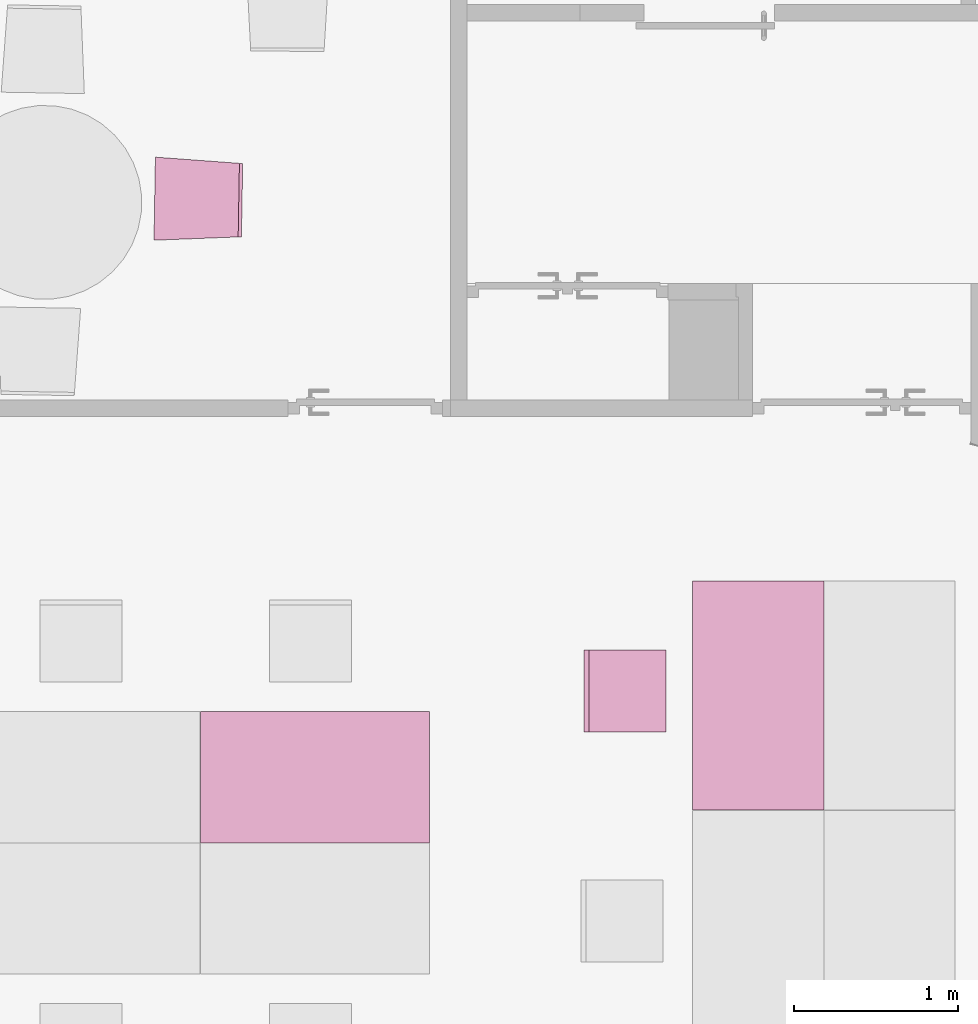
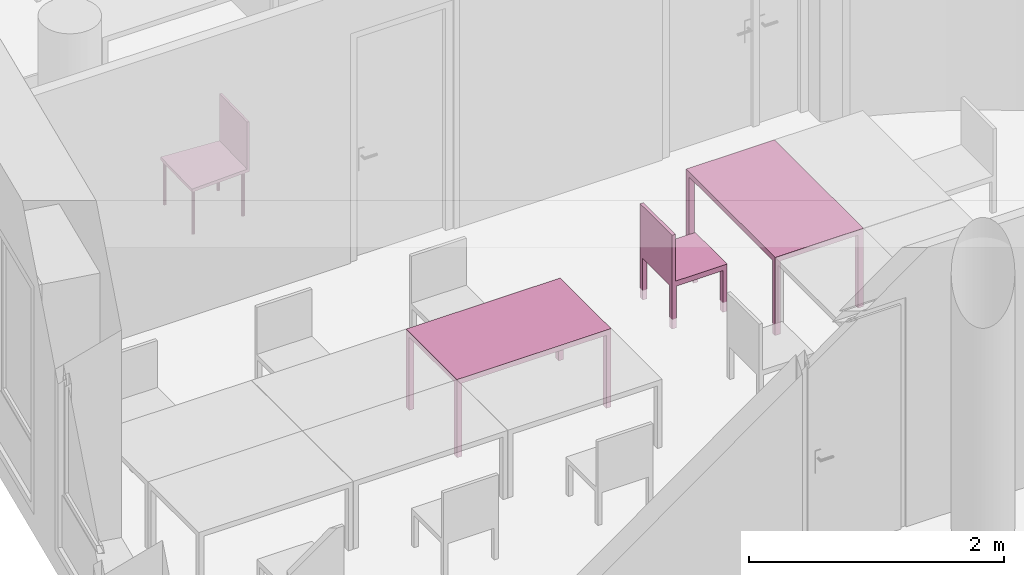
"""IFC4 building model written with IfcOpenShell, lengths in metres."""

from ifc_helpers import new_model, entity, si_unit, converted_unit, derived_unit, frame, origin, place, context, subcontext, project, spatial, faceted_brep, element, save


model = new_model("IFC4")

# Units and contexts
model_context = context("Model", 3, precision=1e-05, world=origin())
body_context = subcontext(model_context, "Body", "Model", "MODEL_VIEW")
ifc_project = project(units=[si_unit("LENGTHUNIT", "METRE"), si_unit("AREAUNIT", "SQUARE_METRE"), si_unit("VOLUMEUNIT", "CUBIC_METRE"), si_unit("MASSUNIT", "GRAM", prefix="KILO"), converted_unit("PLANEANGLEUNIT", "DEGREE", entity("IfcPlaneAngleMeasure", 0.0174532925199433), si_unit("PLANEANGLEUNIT", "RADIAN"), dimensions=[0, 0, 0, 0, 0, 0, 0]), derived_unit("THERMALTRANSMITTANCEUNIT", [(si_unit("POWERUNIT", "WATT"), 1), (si_unit("THERMODYNAMICTEMPERATUREUNIT", "KELVIN"), -1), (si_unit("LENGTHUNIT", "METRE"), -2)]), derived_unit("VOLUMETRICFLOWRATEUNIT", [(si_unit("LENGTHUNIT", "METRE"), 3), (converted_unit("TIMEUNIT", "hour", entity("IfcTimeMeasure", 3600.0), si_unit("TIMEUNIT", "SECOND"), dimensions=[0, 0, 1, 0, 0, 0, 0]), -1), (si_unit("LENGTHUNIT", "METRE"), -1)])], contexts=[model_context])

# Building, storeys
building_placement = place(None, origin())
building = spatial("IfcBuilding", under=ifc_project, at=building_placement, Name="HABITATGE PLURIFAMILIAR", CompositionType="ELEMENT")
storey_1_placement = place(building_placement, frame((0.0, 0.0, 9.26)))
storey_1 = spatial("IfcBuildingStorey", under=building, at=storey_1_placement, Name="PLANTA SEGONA", CompositionType="ELEMENT", Elevation=9.26)
storey_2_placement = place(storey_1_placement, frame((0.0, 0.0, 6.25)))
storey_2 = spatial("IfcBuildingStorey", under=storey_1, at=storey_2_placement, Name="NOU", CompositionType="PARTIAL")

# Furniture
furniture_1_placement = place(storey_2_placement, frame((402.812001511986, 20.8193908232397, -6.3499999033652)))
element("IfcFurniture", 1, at=furniture_1_placement, inside=storey_2, Name="Taula 140X80_P2", context=body_context, shape_type="Brep", body=[
    faceted_brep([(0.04375, 0.05, 0.0), (0.0, 0.05, 0.0), (0.0, 0.0, 0.0), (0.04375, 0.0, 0.0), (0.04375, 0.0, 0.7), (0.0, 0.0, 0.7), (0.0, 0.05, 0.7), (0.04375, 0.05, 0.7)], [[[0, 1, 2, 3]], [[4, 5, 6, 7]], [[3, 4, 7, 0]], [[2, 5, 4, 3]], [[1, 6, 5, 2]], [[0, 7, 6, 1]]], orient=[[False], [False], [False], [False], [False], [False]]),
    faceted_brep([(0.04375, 0.800069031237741, 0.0), (0.0, 0.800069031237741, 0.0), (0.0, 0.750069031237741, 0.0), (0.04375, 0.750069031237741, 0.0), (0.04375, 0.750069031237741, 0.7), (0.0, 0.750069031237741, 0.7), (0.0, 0.800069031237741, 0.7), (0.04375, 0.800069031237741, 0.7)], [[[0, 1, 2, 3]], [[4, 5, 6, 7]], [[3, 4, 7, 0]], [[2, 5, 4, 3]], [[1, 6, 5, 2]], [[0, 7, 6, 1]]], orient=[[False], [False], [False], [False], [False], [False]]),
    faceted_brep([(1.39732768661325, 0.800069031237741, 0.7), (0.0, 0.800069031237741, 0.7), (0.0, 0.0, 0.7), (1.39732768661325, 0.0, 0.7), (1.39732768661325, 0.0, 0.75), (0.0, 0.0, 0.75), (0.0, 0.800069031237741, 0.75), (1.39732768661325, 0.800069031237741, 0.75)], [[[0, 1, 2, 3]], [[4, 5, 6, 7]], [[3, 4, 7, 0]], [[2, 5, 4, 3]], [[1, 6, 5, 2]], [[0, 7, 6, 1]]], orient=[[False], [False], [False], [False], [False], [False]]),
    faceted_brep([(1.39732768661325, 0.05, 0.0), (1.35357768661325, 0.05, 0.0), (1.35357768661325, 0.0, 0.0), (1.39732768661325, 0.0, 0.0), (1.39732768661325, 0.0, 0.7), (1.35357768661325, 0.0, 0.7), (1.35357768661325, 0.05, 0.7), (1.39732768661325, 0.05, 0.7)], [[[0, 1, 2, 3]], [[4, 5, 6, 7]], [[3, 4, 7, 0]], [[2, 5, 4, 3]], [[1, 6, 5, 2]], [[0, 7, 6, 1]]], orient=[[False], [False], [False], [False], [False], [False]]),
    faceted_brep([(1.39732768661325, 0.800069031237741, 0.0), (1.35357768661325, 0.800069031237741, 0.0), (1.35357768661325, 0.750069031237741, 0.0), (1.39732768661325, 0.750069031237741, 0.0), (1.39732768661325, 0.750069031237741, 0.7), (1.35357768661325, 0.750069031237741, 0.7), (1.35357768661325, 0.800069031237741, 0.7), (1.39732768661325, 0.800069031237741, 0.7)], [[[0, 1, 2, 3]], [[4, 5, 6, 7]], [[3, 4, 7, 0]], [[2, 5, 4, 3]], [[1, 6, 5, 2]], [[0, 7, 6, 1]]], orient=[[False], [False], [False], [False], [False], [False]]),
])
furniture_2_placement = place(storey_2_placement, frame((405.811552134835, 21.0190050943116, -6.3499999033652)))
element("IfcFurniture", 2, at=furniture_2_placement, inside=storey_2, Name="Taula 140X80_P2", context=body_context, shape_type="Brep", body=[
    faceted_brep([(0.750069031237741, 1.35357768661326, 0.0), (0.800069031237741, 1.35357768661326, 0.0), (0.800069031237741, 1.39732768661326, 0.0), (0.750069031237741, 1.39732768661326, 0.0), (0.800069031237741, 1.35357768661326, 0.7), (0.750069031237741, 1.35357768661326, 0.7), (0.750069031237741, 1.39732768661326, 0.7), (0.800069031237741, 1.39732768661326, 0.7)], [[[0, 1, 2, 3]], [[4, 5, 6, 7]], [[1, 0, 5, 4]], [[2, 1, 4, 7]], [[3, 2, 7, 6]], [[0, 3, 6, 5]]], orient=[[False], [False], [False], [False], [False], [False]]),
    faceted_brep([(0.0, 1.35357768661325, 0.0), (0.05, 1.35357768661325, 0.0), (0.05, 1.39732768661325, 0.0), (0.0, 1.39732768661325, 0.0), (0.05, 1.35357768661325, 0.7), (0.0, 1.35357768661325, 0.7), (0.0, 1.39732768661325, 0.7), (0.05, 1.39732768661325, 0.7)], [[[0, 1, 2, 3]], [[4, 5, 6, 7]], [[1, 0, 5, 4]], [[2, 1, 4, 7]], [[3, 2, 7, 6]], [[0, 3, 6, 5]]], orient=[[False], [False], [False], [False], [False], [False]]),
    faceted_brep([(0.0, 0.0, 0.7), (0.800069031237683, 0.0, 0.7), (0.800069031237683, 1.39732768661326, 0.7), (0.0, 1.39732768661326, 0.7), (0.800069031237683, 0.0, 0.75), (0.0, 0.0, 0.75), (0.0, 1.39732768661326, 0.75), (0.800069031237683, 1.39732768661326, 0.75)], [[[0, 1, 2, 3]], [[4, 5, 6, 7]], [[1, 0, 5, 4]], [[2, 1, 4, 7]], [[3, 2, 7, 6]], [[0, 3, 6, 5]]], orient=[[False], [False], [False], [False], [False], [False]]),
    faceted_brep([(0.750069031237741, 0.0, 0.0), (0.800069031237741, 0.0, 0.0), (0.800069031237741, 0.0437500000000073, 0.0), (0.750069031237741, 0.0437500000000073, 0.0), (0.800069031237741, 0.0, 0.7), (0.750069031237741, 0.0, 0.7), (0.750069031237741, 0.0437500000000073, 0.7), (0.800069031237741, 0.0437500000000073, 0.7)], [[[0, 1, 2, 3]], [[4, 5, 6, 7]], [[1, 0, 5, 4]], [[2, 1, 4, 7]], [[3, 2, 7, 6]], [[0, 3, 6, 5]]], orient=[[False], [False], [False], [False], [False], [False]]),
    faceted_brep([(0.0, 0.0, 0.0), (0.05, 0.0, 0.0), (0.05, 0.04375, 0.0), (0.0, 0.04375, 0.0), (0.05, 0.0, 0.7), (0.0, 0.0, 0.7), (0.0, 0.04375, 0.7), (0.05, 0.04375, 0.7)], [[[0, 1, 2, 3]], [[4, 5, 6, 7]], [[1, 0, 5, 4]], [[2, 1, 4, 7]], [[3, 2, 7, 6]], [[0, 3, 6, 5]]], orient=[[False], [False], [False], [False], [False], [False]]),
])
furniture_3_placement = place(storey_2_placement, frame((405.150919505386, 21.4943461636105, -6.34507213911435)))
element("IfcFurniture", 3, at=furniture_3_placement, inside=storey_2, Name="Cadira d'Oficina_P2", context=body_context, shape_type="Brep", body=[
    faceted_brep([(0.5, 0.0, 0.4), (0.5, 0.5, 0.4), (0.0, 0.5, 0.4), (0.0, 0.0, 0.4), (0.0, 0.0, 0.45), (0.0, 0.5, 0.45), (0.5, 0.5, 0.45), (0.5, 0.0, 0.45)], [[[0, 1, 2, 3]], [[4, 5, 6, 7]], [[3, 4, 7, 0]], [[2, 5, 4, 3]], [[1, 6, 5, 2]], [[0, 7, 6, 1]]], orient=[[False], [False], [False], [False], [False], [False]]),
    faceted_brep([(0.04, 0.5, 0.0), (0.0, 0.5, 0.0), (0.0, 0.46, 0.0), (0.04, 0.46, 0.0), (0.04, 0.46, 0.4), (0.0, 0.46, 0.4), (0.0, 0.5, 0.4), (0.04, 0.5, 0.4)], [[[0, 1, 2, 3]], [[4, 5, 6, 7]], [[3, 4, 7, 0]], [[2, 5, 4, 3]], [[1, 6, 5, 2]], [[0, 7, 6, 1]]], orient=[[False], [False], [False], [False], [False], [False]]),
    faceted_brep([(0.5, 0.5, 0.0), (0.46, 0.5, 0.0), (0.46, 0.46, 0.0), (0.5, 0.46, 0.0), (0.5, 0.46, 0.4), (0.46, 0.46, 0.4), (0.46, 0.5, 0.4), (0.5, 0.5, 0.4)], [[[0, 1, 2, 3]], [[4, 5, 6, 7]], [[3, 4, 7, 0]], [[2, 5, 4, 3]], [[1, 6, 5, 2]], [[0, 7, 6, 1]]], orient=[[False], [False], [False], [False], [False], [False]]),
    faceted_brep([(0.04, 0.04, 0.0), (0.0, 0.04, 0.0), (0.0, 0.0, 0.0), (0.04, 0.0, 0.0), (0.04, 0.0, 0.4), (0.0, 0.0, 0.4), (0.0, 0.04, 0.4), (0.04, 0.04, 0.4)], [[[0, 1, 2, 3]], [[4, 5, 6, 7]], [[3, 4, 7, 0]], [[2, 5, 4, 3]], [[1, 6, 5, 2]], [[0, 7, 6, 1]]], orient=[[False], [False], [False], [False], [False], [False]]),
    faceted_brep([(0.5, 0.04, 0.0), (0.46, 0.04, 0.0), (0.46, 0.0, 0.0), (0.5, 0.0, 0.0), (0.5, 0.0, 0.4), (0.46, 0.0, 0.4), (0.46, 0.04, 0.4), (0.5, 0.04, 0.4)], [[[0, 1, 2, 3]], [[4, 5, 6, 7]], [[3, 4, 7, 0]], [[2, 5, 4, 3]], [[1, 6, 5, 2]], [[0, 7, 6, 1]]], orient=[[False], [False], [False], [False], [False], [False]]),
    faceted_brep([(0.03, 0.5, 0.45), (0.0, 0.5, 0.45), (0.0, 0.0, 0.45), (0.03, 0.0, 0.45), (0.03, 0.0, 0.9), (0.0, 0.0, 0.9), (0.0, 0.5, 0.9), (0.03, 0.5, 0.9)], [[[0, 1, 2, 3]], [[4, 5, 6, 7]], [[3, 4, 7, 0]], [[2, 5, 4, 3]], [[1, 6, 5, 2]], [[0, 7, 6, 1]]], orient=[[False], [False], [False], [False], [False], [False]]),
])
furniture_4_placement = place(storey_2_placement, frame((402.528771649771, 24.4922417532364, -6.3514820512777)))
element("IfcFurniture", 4, at=furniture_4_placement, inside=storey_2, Name="Cadira confident_P2", context=body_context, shape_type="Brep", body=[
    faceted_brep([(0.0257632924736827, 0.0387289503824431, 0.0), (0.0231658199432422, 0.0385463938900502, 0.0), (0.0206395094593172, 0.0379155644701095, 0.0), (0.0182611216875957, 0.0368556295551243, 0.0), (0.0161029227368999, 0.0353987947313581, 0.0), (0.0142304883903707, 0.0335893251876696, 0.0), (0.0127007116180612, 0.0314822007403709, 0.0), (0.0115600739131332, 0.0291414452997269, 0.0), (0.0108432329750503, 0.0266381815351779, 0.0), (0.0105719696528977, 0.0240484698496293, 0.0), (0.0107545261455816, 0.0214509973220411, 0.0), (0.0113853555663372, 0.0189246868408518, 0.0), (0.0124452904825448, 0.0165462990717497, 0.0), (0.0139021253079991, 0.0143881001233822, 0.0), (0.0157115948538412, 0.0125156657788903, 0.0), (0.0178187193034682, 0.0109858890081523, 0.0), (0.0201594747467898, 0.00984525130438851, 0.0), (0.0226627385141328, 0.00912841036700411, 0.0), (0.0252524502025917, 0.00885714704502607, 0.0), (0.0278499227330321, 0.00903970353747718, 0.0), (0.0303762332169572, 0.00967053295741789, 0.0), (0.0327546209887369, 0.0107304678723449, 0.0), (0.0349128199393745, 0.0121873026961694, 0.0), (0.0367852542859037, 0.0139967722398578, 0.0), (0.0383150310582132, 0.0161038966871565, 0.0), (0.0394556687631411, 0.0184446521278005, 0.0), (0.0401725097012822, 0.0209479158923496, 0.0), (0.0404437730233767, 0.0235376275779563, 0.0), (0.040261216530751, 0.0261351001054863, 0.0), (0.0396303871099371, 0.0286614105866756, 0.0), (0.0385704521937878, 0.0310397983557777, 0.0), (0.0371136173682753, 0.0331979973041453, 0.0), (0.0353041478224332, 0.0350704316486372, 0.0), (0.0331970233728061, 0.0366002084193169, 0.0), (0.0308562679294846, 0.0377408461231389, 0.0), (0.0283530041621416, 0.0384576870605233, 0.0), (0.0257632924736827, 0.0387289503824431, 0.448281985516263), (0.0283530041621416, 0.0384576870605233, 0.448281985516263), (0.0308562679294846, 0.0377408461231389, 0.448281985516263), (0.0331970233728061, 0.0366002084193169, 0.448281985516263), (0.0353041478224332, 0.0350704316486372, 0.448281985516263), (0.0371136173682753, 0.0331979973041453, 0.448281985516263), (0.0385704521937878, 0.0310397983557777, 0.448281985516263), (0.0396303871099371, 0.0286614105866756, 0.448281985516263), (0.040261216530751, 0.0261351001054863, 0.448281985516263), (0.0404437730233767, 0.0235376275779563, 0.448281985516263), (0.0401725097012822, 0.0209479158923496, 0.448281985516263), (0.0394556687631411, 0.0184446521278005, 0.448281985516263), (0.0383150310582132, 0.0161038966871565, 0.448281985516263), (0.0367852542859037, 0.0139967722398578, 0.448281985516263), (0.0349128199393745, 0.0121873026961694, 0.448281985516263), (0.0327546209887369, 0.0107304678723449, 0.448281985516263), (0.0303762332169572, 0.00967053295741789, 0.448281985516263), (0.0278499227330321, 0.00903970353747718, 0.448281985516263), (0.0252524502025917, 0.00885714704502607, 0.448281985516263), (0.0226627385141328, 0.00912841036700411, 0.448281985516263), (0.0201594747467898, 0.00984525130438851, 0.448281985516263), (0.0178187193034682, 0.0109858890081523, 0.448281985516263), (0.0157115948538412, 0.0125156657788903, 0.448281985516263), (0.0139021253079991, 0.0143881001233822, 0.448281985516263), (0.0124452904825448, 0.0165462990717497, 0.448281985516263), (0.0113853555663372, 0.0189246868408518, 0.448281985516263), (0.0107545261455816, 0.0214509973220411, 0.448281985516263), (0.0105719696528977, 0.0240484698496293, 0.448281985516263), (0.0108432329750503, 0.0266381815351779, 0.448281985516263), (0.0115600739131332, 0.0291414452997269, 0.448281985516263), (0.0127007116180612, 0.0314822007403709, 0.448281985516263), (0.0142304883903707, 0.0335893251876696, 0.448281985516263), (0.0161029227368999, 0.0353987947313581, 0.448281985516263), (0.0182611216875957, 0.0368556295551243, 0.448281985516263), (0.0206395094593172, 0.0379155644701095, 0.448281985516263), (0.0231658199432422, 0.0385463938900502, 0.448281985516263)], [[[0, 1, 2, 3, 4, 5, 6, 7, 8, 9, 10, 11, 12, 13, 14, 15, 16, 17, 18, 19, 20, 21, 22, 23, 24, 25, 26, 27, 28, 29, 30, 31, 32, 33, 34, 35]], [[36, 37, 38, 39, 40, 41, 42, 43, 44, 45, 46, 47, 48, 49, 50, 51, 52, 53, 54, 55, 56, 57, 58, 59, 60, 61, 62, 63, 64, 65, 66, 67, 68, 69, 70, 71]], [[35, 37, 36, 0]], [[34, 38, 37, 35]], [[33, 39, 38, 34]], [[32, 40, 39, 33]], [[31, 41, 40, 32]], [[30, 42, 41, 31]], [[29, 43, 42, 30]], [[28, 44, 43, 29]], [[27, 45, 44, 28]], [[26, 46, 45, 27]], [[25, 47, 46, 26]], [[24, 48, 47, 25]], [[23, 49, 48, 24]], [[22, 50, 49, 23]], [[21, 51, 50, 22]], [[20, 52, 51, 21]], [[19, 53, 52, 20]], [[18, 54, 53, 19]], [[17, 55, 54, 18]], [[16, 56, 55, 17]], [[15, 57, 56, 16]], [[14, 58, 57, 15]], [[13, 59, 58, 14]], [[12, 60, 59, 13]], [[11, 61, 60, 12]], [[10, 62, 61, 11]], [[9, 63, 62, 10]], [[8, 64, 63, 9]], [[7, 65, 64, 8]], [[6, 66, 65, 7]], [[5, 67, 66, 6]], [[4, 68, 67, 5]], [[3, 69, 68, 4]], [[2, 70, 69, 3]], [[1, 71, 70, 2]], [[0, 36, 71, 1]]], orient=[[False], [False], [False], [False], [False], [False], [False], [False], [False], [False], [False], [False], [False], [False], [False], [False], [False], [False], [False], [False], [False], [False], [False], [False], [False], [False], [False], [False], [False], [False], [False], [False], [False], [False], [False], [False], [False], [False]]),
    faceted_brep([(0.488575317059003, 0.0584563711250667, 0.0), (0.485977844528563, 0.0582738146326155, 0.0), (0.483451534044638, 0.0576429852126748, 0.0), (0.481073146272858, 0.0565830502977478, 0.0), (0.478914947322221, 0.0551262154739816, 0.0), (0.477042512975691, 0.0533167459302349, 0.0), (0.475512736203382, 0.0512096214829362, 0.0), (0.474372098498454, 0.0488688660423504, 0.0), (0.473655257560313, 0.0463656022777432, 0.0), (0.473383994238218, 0.0437758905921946, 0.0), (0.473566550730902, 0.0411784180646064, 0.0), (0.474197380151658, 0.0386521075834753, 0.0), (0.475257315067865, 0.0362737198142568, 0.0), (0.47671414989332, 0.0341155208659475, 0.0), (0.478523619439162, 0.0322430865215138, 0.0), (0.480630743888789, 0.0307133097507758, 0.0), (0.48297149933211, 0.0295726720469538, 0.0), (0.485474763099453, 0.0288558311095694, 0.0), (0.488064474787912, 0.0285845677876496, 0.0), (0.490661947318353, 0.0287671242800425, 0.0), (0.493188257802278, 0.0293979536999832, 0.0), (0.495566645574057, 0.0304578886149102, 0.0), (0.497724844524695, 0.0319147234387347, 0.0), (0.499597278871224, 0.0337241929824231, 0.0), (0.501127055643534, 0.0358313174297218, 0.0), (0.502267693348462, 0.0381720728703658, 0.0), (0.502984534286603, 0.0406753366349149, 0.0), (0.503255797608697, 0.0432650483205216, 0.0), (0.503073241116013, 0.0458625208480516, 0.0), (0.502442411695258, 0.0483888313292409, 0.0), (0.501382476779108, 0.0507672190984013, 0.0), (0.499925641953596, 0.0529254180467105, 0.0), (0.498116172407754, 0.0547978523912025, 0.0), (0.496009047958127, 0.0563276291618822, 0.0), (0.493668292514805, 0.0574682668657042, 0.0), (0.491165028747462, 0.0581851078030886, 0.0), (0.488575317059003, 0.0584563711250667, 0.448281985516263), (0.491165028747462, 0.0581851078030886, 0.448281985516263), (0.493668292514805, 0.0574682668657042, 0.448281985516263), (0.496009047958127, 0.0563276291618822, 0.448281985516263), (0.498116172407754, 0.0547978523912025, 0.448281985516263), (0.499925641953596, 0.0529254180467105, 0.448281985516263), (0.501382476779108, 0.0507672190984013, 0.448281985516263), (0.502442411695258, 0.0483888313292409, 0.448281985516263), (0.503073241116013, 0.0458625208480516, 0.448281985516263), (0.503255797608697, 0.0432650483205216, 0.448281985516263), (0.502984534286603, 0.0406753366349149, 0.448281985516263), (0.502267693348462, 0.0381720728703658, 0.448281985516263), (0.501127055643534, 0.0358313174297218, 0.448281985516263), (0.499597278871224, 0.0337241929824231, 0.448281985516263), (0.497724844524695, 0.0319147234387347, 0.448281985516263), (0.495566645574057, 0.0304578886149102, 0.448281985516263), (0.493188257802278, 0.0293979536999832, 0.448281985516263), (0.490661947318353, 0.0287671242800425, 0.448281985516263), (0.488064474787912, 0.0285845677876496, 0.448281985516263), (0.485474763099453, 0.0288558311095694, 0.448281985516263), (0.48297149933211, 0.0295726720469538, 0.448281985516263), (0.480630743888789, 0.0307133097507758, 0.448281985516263), (0.478523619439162, 0.0322430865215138, 0.448281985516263), (0.47671414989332, 0.0341155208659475, 0.448281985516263), (0.475257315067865, 0.0362737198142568, 0.448281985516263), (0.474197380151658, 0.0386521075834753, 0.448281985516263), (0.473566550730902, 0.0411784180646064, 0.448281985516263), (0.473383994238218, 0.0437758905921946, 0.448281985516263), (0.473655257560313, 0.0463656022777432, 0.448281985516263), (0.474372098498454, 0.0488688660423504, 0.448281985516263), (0.475512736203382, 0.0512096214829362, 0.448281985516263), (0.477042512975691, 0.0533167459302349, 0.448281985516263), (0.478914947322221, 0.0551262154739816, 0.448281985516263), (0.481073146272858, 0.0565830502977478, 0.448281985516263), (0.483451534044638, 0.0576429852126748, 0.448281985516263), (0.485977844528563, 0.0582738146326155, 0.448281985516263)], [[[0, 1, 2, 3, 4, 5, 6, 7, 8, 9, 10, 11, 12, 13, 14, 15, 16, 17, 18, 19, 20, 21, 22, 23, 24, 25, 26, 27, 28, 29, 30, 31, 32, 33, 34, 35]], [[36, 37, 38, 39, 40, 41, 42, 43, 44, 45, 46, 47, 48, 49, 50, 51, 52, 53, 54, 55, 56, 57, 58, 59, 60, 61, 62, 63, 64, 65, 66, 67, 68, 69, 70, 71]], [[35, 37, 36, 0]], [[34, 38, 37, 35]], [[33, 39, 38, 34]], [[32, 40, 39, 33]], [[31, 41, 40, 32]], [[30, 42, 41, 31]], [[29, 43, 42, 30]], [[28, 44, 43, 29]], [[27, 45, 44, 28]], [[26, 46, 45, 27]], [[25, 47, 46, 26]], [[24, 48, 47, 25]], [[23, 49, 48, 24]], [[22, 50, 49, 23]], [[21, 51, 50, 22]], [[20, 52, 51, 21]], [[19, 53, 52, 20]], [[18, 54, 53, 19]], [[17, 55, 54, 18]], [[16, 56, 55, 17]], [[15, 57, 56, 16]], [[14, 58, 57, 15]], [[13, 59, 58, 14]], [[12, 60, 59, 13]], [[11, 61, 60, 12]], [[10, 62, 61, 11]], [[9, 63, 62, 10]], [[8, 64, 63, 9]], [[7, 65, 64, 8]], [[6, 66, 65, 7]], [[5, 67, 66, 6]], [[4, 68, 67, 5]], [[3, 69, 68, 4]], [[2, 70, 69, 3]], [[1, 71, 70, 2]], [[0, 36, 71, 1]]], orient=[[False], [False], [False], [False], [False], [False], [False], [False], [False], [False], [False], [False], [False], [False], [False], [False], [False], [False], [False], [False], [False], [False], [False], [False], [False], [False], [False], [False], [False], [False], [False], [False], [False], [False], [False], [False], [False], [False]]),
    faceted_brep([(0.0336286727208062, 0.498661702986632, 0.0), (0.0310312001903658, 0.498479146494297, 0.0), (0.0285048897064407, 0.497848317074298, 0.0), (0.0261265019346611, 0.496788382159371, 0.0), (0.0239683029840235, 0.495331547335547, 0.0), (0.0220958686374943, 0.493522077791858, 0.0), (0.0205660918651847, 0.49141495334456, 0.0), (0.0194254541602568, 0.489074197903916, 0.0), (0.0187086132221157, 0.486570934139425, 0.0), (0.0184373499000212, 0.48398122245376, 0.0), (0.0186199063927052, 0.48138374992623, 0.0), (0.0192507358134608, 0.478857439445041, 0.0), (0.0203106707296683, 0.476479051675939, 0.0), (0.0217675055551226, 0.474320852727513, 0.0), (0.0235769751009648, 0.472448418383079, 0.0), (0.0256840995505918, 0.470918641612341, 0.0), (0.0280248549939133, 0.469778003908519, 0.0), (0.0305281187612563, 0.469061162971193, 0.0), (0.0331178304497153, 0.468789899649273, 0.0), (0.0357153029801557, 0.468972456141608, 0.0), (0.0382416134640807, 0.469603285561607, 0.0), (0.0406200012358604, 0.470663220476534, 0.0), (0.042778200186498, 0.472120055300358, 0.0), (0.0446506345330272, 0.473929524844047, 0.0), (0.0461804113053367, 0.476036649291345, 0.0), (0.0473210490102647, 0.478377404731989, 0.0), (0.0480378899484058, 0.48088066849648, 0.0), (0.0483091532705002, 0.483470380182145, 0.0), (0.0481265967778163, 0.486067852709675, 0.0), (0.0474957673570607, 0.488594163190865, 0.0), (0.0464358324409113, 0.490972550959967, 0.0), (0.0449789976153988, 0.493130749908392, 0.0), (0.0431695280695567, 0.495003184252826, 0.0), (0.0410624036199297, 0.496532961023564, 0.0), (0.0387216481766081, 0.497673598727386, 0.0), (0.0362183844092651, 0.498390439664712, 0.0), (0.0336286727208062, 0.498661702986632, 0.448281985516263), (0.0362183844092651, 0.498390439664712, 0.448281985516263), (0.0387216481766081, 0.497673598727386, 0.448281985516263), (0.0410624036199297, 0.496532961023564, 0.448281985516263), (0.0431695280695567, 0.495003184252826, 0.448281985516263), (0.0449789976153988, 0.493130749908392, 0.448281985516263), (0.0464358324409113, 0.490972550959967, 0.448281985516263), (0.0474957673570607, 0.488594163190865, 0.448281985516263), (0.0481265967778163, 0.486067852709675, 0.448281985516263), (0.0483091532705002, 0.483470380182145, 0.448281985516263), (0.0480378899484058, 0.48088066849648, 0.448281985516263), (0.0473210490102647, 0.478377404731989, 0.448281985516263), (0.0461804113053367, 0.476036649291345, 0.448281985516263), (0.0446506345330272, 0.473929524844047, 0.448281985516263), (0.042778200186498, 0.472120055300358, 0.448281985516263), (0.0406200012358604, 0.470663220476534, 0.448281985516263), (0.0382416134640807, 0.469603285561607, 0.448281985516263), (0.0357153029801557, 0.468972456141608, 0.448281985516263), (0.0331178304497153, 0.468789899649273, 0.448281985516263), (0.0305281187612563, 0.469061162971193, 0.448281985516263), (0.0280248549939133, 0.469778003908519, 0.448281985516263), (0.0256840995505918, 0.470918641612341, 0.448281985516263), (0.0235769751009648, 0.472448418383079, 0.448281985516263), (0.0217675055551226, 0.474320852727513, 0.448281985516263), (0.0203106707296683, 0.476479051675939, 0.448281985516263), (0.0192507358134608, 0.478857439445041, 0.448281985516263), (0.0186199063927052, 0.48138374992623, 0.448281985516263), (0.0184373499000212, 0.48398122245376, 0.448281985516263), (0.0187086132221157, 0.486570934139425, 0.448281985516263), (0.0194254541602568, 0.489074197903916, 0.448281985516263), (0.0205660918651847, 0.49141495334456, 0.448281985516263), (0.0220958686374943, 0.493522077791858, 0.448281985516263), (0.0239683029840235, 0.495331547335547, 0.448281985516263), (0.0261265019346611, 0.496788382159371, 0.448281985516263), (0.0285048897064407, 0.497848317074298, 0.448281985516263), (0.0310312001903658, 0.498479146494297, 0.448281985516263)], [[[0, 1, 2, 3, 4, 5, 6, 7, 8, 9, 10, 11, 12, 13, 14, 15, 16, 17, 18, 19, 20, 21, 22, 23, 24, 25, 26, 27, 28, 29, 30, 31, 32, 33, 34, 35]], [[36, 37, 38, 39, 40, 41, 42, 43, 44, 45, 46, 47, 48, 49, 50, 51, 52, 53, 54, 55, 56, 57, 58, 59, 60, 61, 62, 63, 64, 65, 66, 67, 68, 69, 70, 71]], [[35, 37, 36, 0]], [[34, 38, 37, 35]], [[33, 39, 38, 34]], [[32, 40, 39, 33]], [[31, 41, 40, 32]], [[30, 42, 41, 31]], [[29, 43, 42, 30]], [[28, 44, 43, 29]], [[27, 45, 44, 28]], [[26, 46, 45, 27]], [[25, 47, 46, 26]], [[24, 48, 47, 25]], [[23, 49, 48, 24]], [[22, 50, 49, 23]], [[21, 51, 50, 22]], [[20, 52, 51, 21]], [[19, 53, 52, 20]], [[18, 54, 53, 19]], [[17, 55, 54, 18]], [[16, 56, 55, 17]], [[15, 57, 56, 16]], [[14, 58, 57, 15]], [[13, 59, 58, 14]], [[12, 60, 59, 13]], [[11, 61, 60, 12]], [[10, 62, 61, 11]], [[9, 63, 62, 10]], [[8, 64, 63, 9]], [[7, 65, 64, 8]], [[6, 66, 65, 7]], [[5, 67, 66, 6]], [[4, 68, 67, 5]], [[3, 69, 68, 4]], [[2, 70, 69, 3]], [[1, 71, 70, 2]], [[0, 36, 71, 1]]], orient=[[False], [False], [False], [False], [False], [False], [False], [False], [False], [False], [False], [False], [False], [False], [False], [False], [False], [False], [False], [False], [False], [False], [False], [False], [False], [False], [False], [False], [False], [False], [False], [False], [False], [False], [False], [False], [False], [False]]),
    faceted_brep([(0.495414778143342, 0.458397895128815, 0.0), (0.492817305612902, 0.458215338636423, 0.0), (0.490290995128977, 0.457584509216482, 0.0), (0.487912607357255, 0.456524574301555, 0.0), (0.485754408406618, 0.455067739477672, 0.0), (0.48388197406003, 0.453258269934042, 0.0), (0.482352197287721, 0.451151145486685, 0.0), (0.481211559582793, 0.448810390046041, 0.0), (0.48049471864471, 0.44630712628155, 0.0), (0.480223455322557, 0.443717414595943, 0.0), (0.480406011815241, 0.441119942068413, 0.0), (0.481036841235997, 0.438593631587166, 0.0), (0.482096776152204, 0.436215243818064, 0.0), (0.483553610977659, 0.434057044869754, 0.0), (0.485363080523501, 0.432184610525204, 0.0), (0.487470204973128, 0.430654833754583, 0.0), (0.489810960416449, 0.429514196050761, 0.0), (0.492314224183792, 0.428797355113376, 0.0), (0.494903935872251, 0.428526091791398, 0.0), (0.497501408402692, 0.428708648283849, 0.0), (0.500027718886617, 0.42933947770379, 0.0), (0.502406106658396, 0.430399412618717, 0.0), (0.504564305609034, 0.431856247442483, 0.0), (0.506436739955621, 0.43366571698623, 0.0), (0.507966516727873, 0.435772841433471, 0.0), (0.509107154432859, 0.438113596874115, 0.0), (0.509823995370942, 0.440616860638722, 0.0), (0.510095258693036, 0.44320657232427, 0.0), (0.50991270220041, 0.445804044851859, 0.0), (0.509281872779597, 0.44833035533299, 0.0), (0.508221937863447, 0.450708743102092, 0.0), (0.506765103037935, 0.452866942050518, 0.0), (0.504955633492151, 0.454739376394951, 0.0), (0.502848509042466, 0.456269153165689, 0.0), (0.500507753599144, 0.457409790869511, 0.0), (0.498004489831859, 0.458126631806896, 0.0), (0.495414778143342, 0.458397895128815, 0.448281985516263), (0.498004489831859, 0.458126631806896, 0.448281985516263), (0.500507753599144, 0.457409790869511, 0.448281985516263), (0.502848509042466, 0.456269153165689, 0.448281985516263), (0.504955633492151, 0.454739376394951, 0.448281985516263), (0.506765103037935, 0.452866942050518, 0.448281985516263), (0.508221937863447, 0.450708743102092, 0.448281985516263), (0.509281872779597, 0.44833035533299, 0.448281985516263), (0.50991270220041, 0.445804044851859, 0.448281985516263), (0.510095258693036, 0.44320657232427, 0.448281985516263), (0.509823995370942, 0.440616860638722, 0.448281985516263), (0.509107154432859, 0.438113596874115, 0.448281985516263), (0.507966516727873, 0.435772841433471, 0.448281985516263), (0.506436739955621, 0.43366571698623, 0.448281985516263), (0.504564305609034, 0.431856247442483, 0.448281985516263), (0.502406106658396, 0.430399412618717, 0.448281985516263), (0.500027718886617, 0.42933947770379, 0.448281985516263), (0.497501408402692, 0.428708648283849, 0.448281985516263), (0.494903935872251, 0.428526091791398, 0.448281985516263), (0.492314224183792, 0.428797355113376, 0.448281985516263), (0.489810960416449, 0.429514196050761, 0.448281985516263), (0.487470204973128, 0.430654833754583, 0.448281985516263), (0.485363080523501, 0.432184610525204, 0.448281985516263), (0.483553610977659, 0.434057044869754, 0.448281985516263), (0.482096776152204, 0.436215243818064, 0.448281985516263), (0.481036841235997, 0.438593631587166, 0.448281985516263), (0.480406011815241, 0.441119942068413, 0.448281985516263), (0.480223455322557, 0.443717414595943, 0.448281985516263), (0.48049471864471, 0.44630712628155, 0.448281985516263), (0.481211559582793, 0.448810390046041, 0.448281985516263), (0.482352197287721, 0.451151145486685, 0.448281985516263), (0.48388197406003, 0.453258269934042, 0.448281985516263), (0.485754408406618, 0.455067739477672, 0.448281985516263), (0.487912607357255, 0.456524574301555, 0.448281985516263), (0.490290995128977, 0.457584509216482, 0.448281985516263), (0.492817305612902, 0.458215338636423, 0.448281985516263)], [[[0, 1, 2, 3, 4, 5, 6, 7, 8, 9, 10, 11, 12, 13, 14, 15, 16, 17, 18, 19, 20, 21, 22, 23, 24, 25, 26, 27, 28, 29, 30, 31, 32, 33, 34, 35]], [[36, 37, 38, 39, 40, 41, 42, 43, 44, 45, 46, 47, 48, 49, 50, 51, 52, 53, 54, 55, 56, 57, 58, 59, 60, 61, 62, 63, 64, 65, 66, 67, 68, 69, 70, 71]], [[35, 37, 36, 0]], [[34, 38, 37, 35]], [[33, 39, 38, 34]], [[32, 40, 39, 33]], [[31, 41, 40, 32]], [[30, 42, 41, 31]], [[29, 43, 42, 30]], [[28, 44, 43, 29]], [[27, 45, 44, 28]], [[26, 46, 45, 27]], [[25, 47, 46, 26]], [[24, 48, 47, 25]], [[23, 49, 48, 24]], [[22, 50, 49, 23]], [[21, 51, 50, 22]], [[20, 52, 51, 21]], [[19, 53, 52, 20]], [[18, 54, 53, 19]], [[17, 55, 54, 18]], [[16, 56, 55, 17]], [[15, 57, 56, 16]], [[14, 58, 57, 15]], [[13, 59, 58, 14]], [[12, 60, 59, 13]], [[11, 61, 60, 12]], [[10, 62, 61, 11]], [[9, 63, 62, 10]], [[8, 64, 63, 9]], [[7, 65, 64, 8]], [[6, 66, 65, 7]], [[5, 67, 66, 6]], [[4, 68, 67, 5]], [[3, 69, 68, 4]], [[2, 70, 69, 3]], [[1, 71, 70, 2]], [[0, 36, 71, 1]]], orient=[[False], [False], [False], [False], [False], [False], [False], [False], [False], [False], [False], [False], [False], [False], [False], [False], [False], [False], [False], [False], [False], [False], [False], [False], [False], [False], [False], [False], [False], [False], [False], [False], [False], [False], [False], [False], [False], [False]]),
    faceted_brep([(0.540677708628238, 0.467338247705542, 0.418281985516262), (0.00866072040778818, 0.50644073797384, 0.418281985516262), (0.0, 0.0, 0.418281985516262), (0.533042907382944, 0.0208887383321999, 0.418281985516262), (0.00866072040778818, 0.50644073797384, 0.448281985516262), (0.540677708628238, 0.467338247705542, 0.448281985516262), (0.533042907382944, 0.0208887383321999, 0.448281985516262), (0.0, 0.0, 0.448281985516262)], [[[0, 1, 2, 3]], [[4, 5, 6, 7]], [[1, 0, 5, 4]], [[2, 1, 4, 7]], [[3, 2, 7, 6]], [[0, 3, 6, 5]]], orient=[[False], [False], [False], [False], [False], [False]]),
    faceted_brep([(0.52068063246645, 0.46768022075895, 0.448281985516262), (0.513045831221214, 0.0212307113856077, 0.448281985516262), (0.533042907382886, 0.0208887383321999, 0.448281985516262), (0.540677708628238, 0.467338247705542, 0.448281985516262), (0.513045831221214, 0.0212307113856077, 0.898281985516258), (0.52068063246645, 0.46768022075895, 0.898281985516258), (0.540677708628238, 0.467338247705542, 0.898281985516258), (0.533042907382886, 0.0208887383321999, 0.898281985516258)], [[[0, 1, 2, 3]], [[4, 5, 6, 7]], [[1, 0, 5, 4]], [[2, 1, 4, 7]], [[3, 2, 7, 6]], [[0, 3, 6, 5]]], orient=[[False], [False], [False], [False], [False], [False]]),
])

save(model, "model.ifc")
